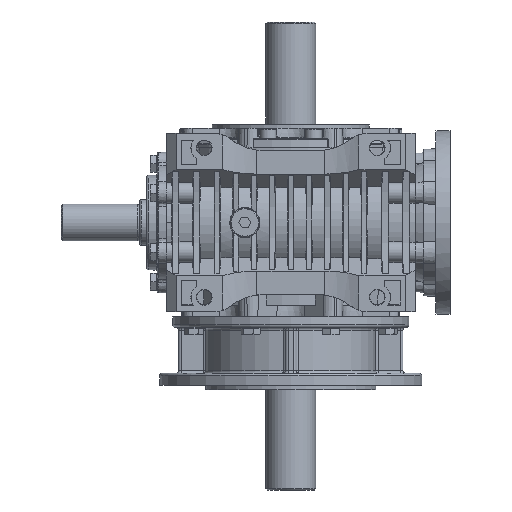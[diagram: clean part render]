
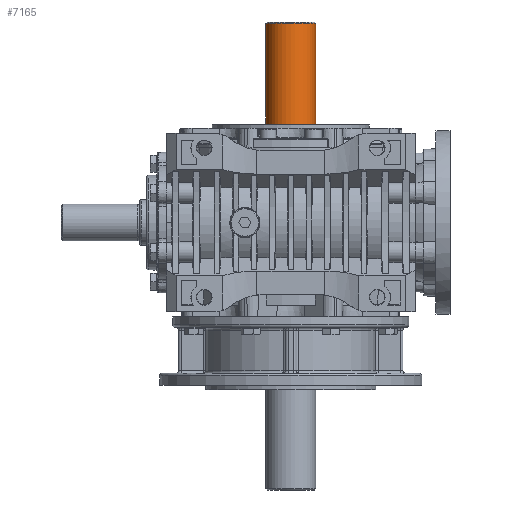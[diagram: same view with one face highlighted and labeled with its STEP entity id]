
A CAD part, front view. The second image highlights one B-rep face of the part: STEP entity #7165.
In plain terms, the highlighted cylindrical face has radius 19 mm (diameter 38 mm), a partial arc.
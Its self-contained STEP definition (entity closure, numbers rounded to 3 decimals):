
#6935 = EDGE_CURVE ( 'NONE', #55439, #8469, #72428, .T. ) ;
#7165 = ADVANCED_FACE ( 'NONE', ( #81609 ), #121361, .T. ) ;
#7304 = DIRECTION ( 'NONE',  ( 1., 0., 0. ) ) ;
#8469 = VERTEX_POINT ( 'NONE', #101050 ) ;
#9433 = EDGE_LOOP ( 'NONE', ( #119560, #103922, #53664, #104706 ) ) ;
#13229 = CARTESIAN_POINT ( 'NONE',  ( 19., 0., 153. ) ) ;
#16199 = AXIS2_PLACEMENT_3D ( 'NONE', #37323, #30101, #39270 ) ;
#16863 = VERTEX_POINT ( 'NONE', #110829 ) ;
#19251 = EDGE_CURVE ( 'NONE', #104459, #16863, #61977, .T. ) ;
#20340 = DIRECTION ( 'NONE',  ( -1., 0., 0. ) ) ;
#20943 = EDGE_CURVE ( 'NONE', #8469, #104459, #94636, .T. ) ;
#30101 = DIRECTION ( 'NONE',  ( 0., 0., -1. ) ) ;
#36627 = CARTESIAN_POINT ( 'NONE',  ( 0., 0., 72.85 ) ) ;
#36796 = CARTESIAN_POINT ( 'NONE',  ( 19., 0., 152. ) ) ;
#37323 = CARTESIAN_POINT ( 'NONE',  ( 0., 0., 152. ) ) ;
#37882 = AXIS2_PLACEMENT_3D ( 'NONE', #71839, #111581, #20340 ) ;
#38420 = VECTOR ( 'NONE', #84883, 1000. ) ;
#39270 = DIRECTION ( 'NONE',  ( 1., 0., 0. ) ) ;
#42885 = CARTESIAN_POINT ( 'NONE',  ( -19., 0., 72.85 ) ) ;
#53004 = DIRECTION ( 'NONE',  ( 0., 0., -1. ) ) ;
#53664 = ORIENTED_EDGE ( 'NONE', *, *, #20943, .T. ) ;
#55439 = VERTEX_POINT ( 'NONE', #36796 ) ;
#61977 = CIRCLE ( 'NONE', #109902, 19. ) ;
#71839 = CARTESIAN_POINT ( 'NONE',  ( 0., 0., 153. ) ) ;
#72428 = CIRCLE ( 'NONE', #16199, 19. ) ;
#72588 = LINE ( 'NONE', #13229, #103178 ) ;
#78310 = EDGE_CURVE ( 'NONE', #55439, #16863, #72588, .T. ) ;
#81609 = FACE_OUTER_BOUND ( 'NONE', #9433, .T. ) ;
#83570 = CARTESIAN_POINT ( 'NONE',  ( -19., 0., 153. ) ) ;
#84883 = DIRECTION ( 'NONE',  ( 0., 0., -1. ) ) ;
#94636 = LINE ( 'NONE', #83570, #38420 ) ;
#101050 = CARTESIAN_POINT ( 'NONE',  ( -19., 0., 152. ) ) ;
#103178 = VECTOR ( 'NONE', #53004, 1000. ) ;
#103922 = ORIENTED_EDGE ( 'NONE', *, *, #6935, .T. ) ;
#104459 = VERTEX_POINT ( 'NONE', #42885 ) ;
#104706 = ORIENTED_EDGE ( 'NONE', *, *, #19251, .T. ) ;
#109902 = AXIS2_PLACEMENT_3D ( 'NONE', #36627, #116192, #7304 ) ;
#110829 = CARTESIAN_POINT ( 'NONE',  ( 19., 0., 72.85 ) ) ;
#111581 = DIRECTION ( 'NONE',  ( 0., 0., -1. ) ) ;
#116192 = DIRECTION ( 'NONE',  ( 0., 0., 1. ) ) ;
#119560 = ORIENTED_EDGE ( 'NONE', *, *, #78310, .F. ) ;
#121361 = CYLINDRICAL_SURFACE ( 'NONE', #37882, 19. ) ;
